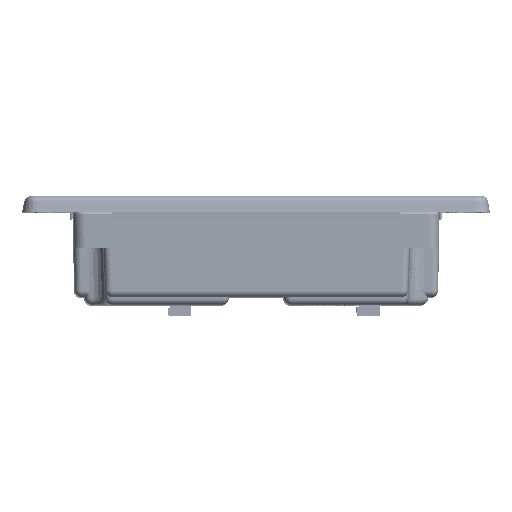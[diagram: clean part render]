
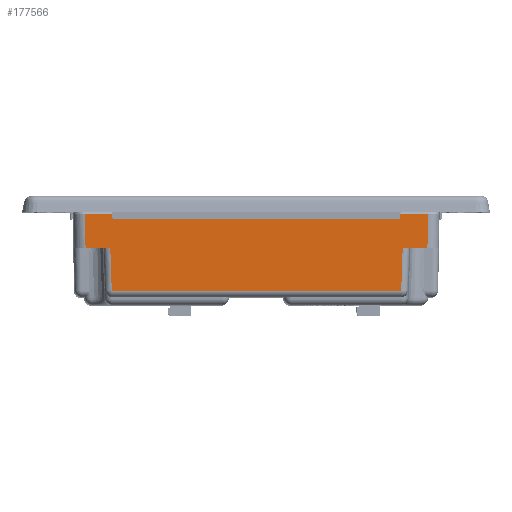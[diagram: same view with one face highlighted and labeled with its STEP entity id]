
A CAD part, left-side view. The second image highlights one B-rep face of the part: STEP entity #177566.
In plain terms, the highlighted planar face has unit normal (-1, -0.001, -0.016) as drawn and (1, 0, 0.017) by its records, which use the part's own axes.
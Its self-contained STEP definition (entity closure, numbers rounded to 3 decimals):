
#27414=ORIENTED_EDGE('',*,*,#69279,.F.);
#27415=ORIENTED_EDGE('',*,*,#69146,.F.);
#27416=ORIENTED_EDGE('',*,*,#69280,.T.);
#27417=ORIENTED_EDGE('',*,*,#69202,.F.);
#27418=ORIENTED_EDGE('',*,*,#69281,.T.);
#27419=ORIENTED_EDGE('',*,*,#69271,.F.);
#27420=ORIENTED_EDGE('',*,*,#69282,.T.);
#27421=ORIENTED_EDGE('',*,*,#69283,.T.);
#69146=EDGE_CURVE('',#91776,#91777,#109564,.T.);
#69202=EDGE_CURVE('',#91810,#91811,#109594,.T.);
#69271=EDGE_CURVE('',#91851,#91852,#109637,.T.);
#69279=EDGE_CURVE('',#91777,#91857,#109640,.T.);
#69280=EDGE_CURVE('',#91776,#91811,#109641,.T.);
#69281=EDGE_CURVE('',#91810,#91852,#109642,.T.);
#69282=EDGE_CURVE('',#91851,#91858,#109643,.T.);
#69283=EDGE_CURVE('',#91858,#91857,#109644,.T.);
#91776=VERTEX_POINT('',#350534);
#91777=VERTEX_POINT('',#350536);
#91810=VERTEX_POINT('',#350847);
#91811=VERTEX_POINT('',#350851);
#91851=VERTEX_POINT('',#351051);
#91852=VERTEX_POINT('',#351053);
#91857=VERTEX_POINT('',#351073);
#91858=VERTEX_POINT('',#351079);
#109564=LINE('',#350535,#129439);
#109594=LINE('',#350850,#129469);
#109637=LINE('',#351052,#129512);
#109640=LINE('',#351074,#129515);
#109641=LINE('',#351076,#129516);
#109642=LINE('',#351077,#129517);
#109643=LINE('',#351078,#129518);
#109644=LINE('',#351080,#129519);
#129439=VECTOR('',#253791,1000.);
#129469=VECTOR('',#253867,1000.);
#129512=VECTOR('',#253996,1000.);
#129515=VECTOR('',#254009,1000.);
#129516=VECTOR('',#254012,1000.);
#129517=VECTOR('',#254013,1000.);
#129518=VECTOR('',#254014,1000.);
#129519=VECTOR('',#254015,1000.);
#146746=EDGE_LOOP('',(#27414,#27415,#27416,#27417,#27418,#27419,#27420,
#27421));
#158505=FACE_BOUND('',#146746,.T.);
#168606=PLANE('',#230097);
#177566=ADVANCED_FACE('',(#158505),#168606,.T.);
#230097=AXIS2_PLACEMENT_3D('',#351075,#254010,#254011);
#253791=DIRECTION('',(0.,1.,0.));
#253867=DIRECTION('',(0.,-1.,0.));
#253996=DIRECTION('',(0.,1.,0.));
#254009=DIRECTION('',(-0.017,0.035,0.999));
#254010=DIRECTION('',(1.,0.,0.017));
#254011=DIRECTION('',(0.,-1.,0.));
#254012=DIRECTION('',(0.017,-0.017,-1.));
#254013=DIRECTION('',(-0.017,-0.017,1.));
#254014=DIRECTION('',(-0.017,-0.035,0.999));
#254015=DIRECTION('',(0.,-1.,0.));
#350534=CARTESIAN_POINT('',(103.284,-81.352,-9.588));
#350535=CARTESIAN_POINT('',(103.284,-85.317,-9.588));
#350536=CARTESIAN_POINT('',(103.284,-72.345,-9.588));
#350847=CARTESIAN_POINT('',(103.502,43.27,-22.074));
#350850=CARTESIAN_POINT('',(103.502,47.017,-22.074));
#350851=CARTESIAN_POINT('',(103.502,-81.57,-22.074));
#351051=CARTESIAN_POINT('',(103.284,34.045,-9.588));
#351052=CARTESIAN_POINT('',(103.284,-85.317,-9.588));
#351053=CARTESIAN_POINT('',(103.284,43.052,-9.588));
#351073=CARTESIAN_POINT('',(103.016,-71.809,5.748));
#351074=CARTESIAN_POINT('',(102.976,-71.729,8.046));
#351075=CARTESIAN_POINT('',(103.052,47.017,3.705));
#351076=CARTESIAN_POINT('',(103.284,-81.352,-9.588));
#351077=CARTESIAN_POINT('',(103.502,43.27,-22.074));
#351078=CARTESIAN_POINT('',(103.284,34.045,-9.588));
#351079=CARTESIAN_POINT('',(103.016,33.51,5.748));
#351080=CARTESIAN_POINT('',(103.016,47.017,5.748));
